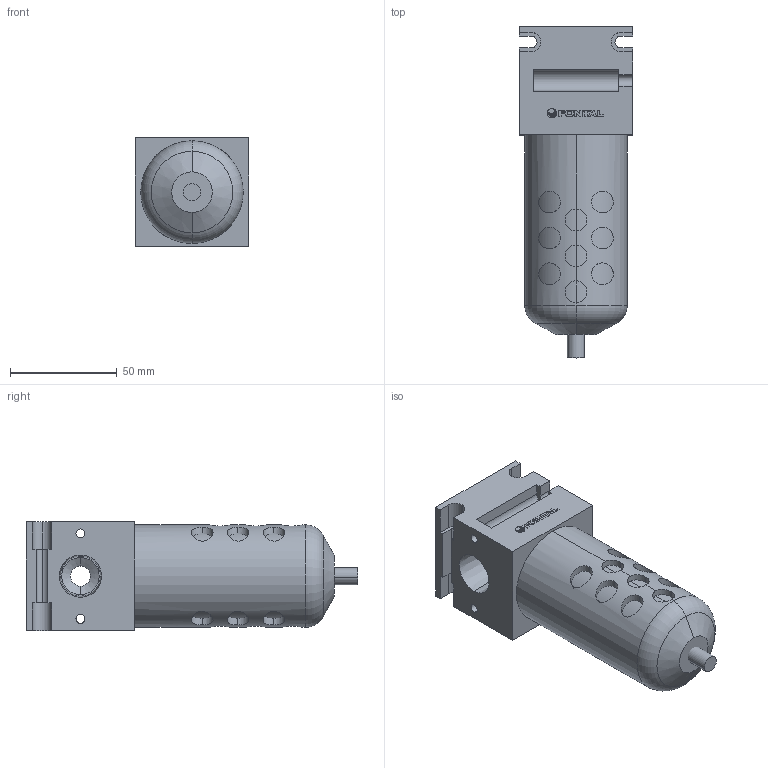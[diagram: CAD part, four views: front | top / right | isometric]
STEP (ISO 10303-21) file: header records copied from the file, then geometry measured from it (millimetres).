
FILE_DESCRIPTION (( 'STEP AP203' ), '1' );
FILE_NAME ('F55-04#Y#.STEP', '2016-02-03T06:20:03', ( '' ), ( '' ), 'SwSTEP 2.0', 'SolidWorks 2014', '' );
FILE_SCHEMA (( 'CONFIG_CONTROL_DESIGN' ));
Length unit declared in the file: millimetre
Products named in the file (5): F55-2; F45-MARK; F55-04#Y#; F55-04
Assembly tree (4 placements, depth 2):
  F55-04#Y#
    F55-04
    F55-2
    F45-MARK
    (unnamed)
Bounding box: 53 x 155.5 x 51.12 mm (x, y, z)
Volume: 267380.6 mm3; surface area: 41579.1 mm2
Topology: 10 solids, 10 shells, 237 faces, 595 edges, 392 vertices
Faces by surface type: plane 109, cylinder 106, cone 12, bspline 8, torus 2
Entity records: 10312 total; most frequent: CARTESIAN_POINT 4209, ORIENTED_EDGE 1190, DIRECTION 1075, EDGE_CURVE 595, VERTEX_POINT 392, VECTOR 375, LINE 375, AXIS2_PLACEMENT_3D 350
